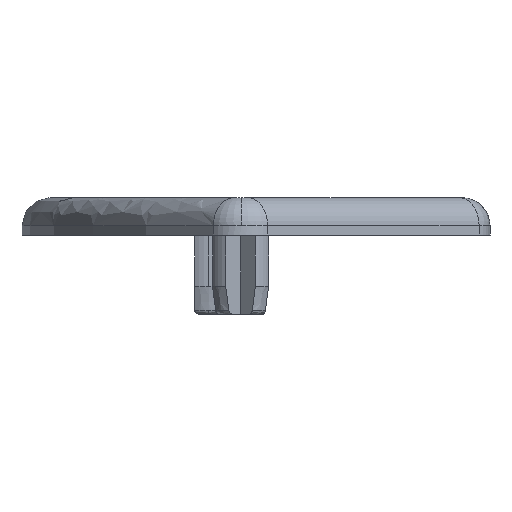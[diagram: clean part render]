
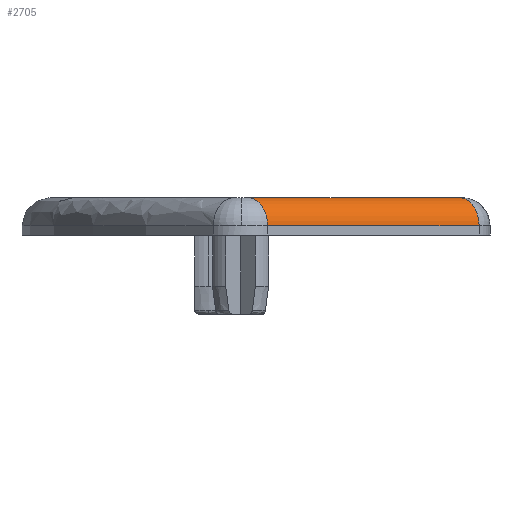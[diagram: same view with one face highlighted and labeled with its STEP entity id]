
A CAD part, left-side view. The second image highlights one B-rep face of the part: STEP entity #2705.
In plain terms, the highlighted cylindrical face has radius 3 mm (diameter 6 mm), a partial arc.
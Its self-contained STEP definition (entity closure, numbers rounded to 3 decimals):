
#28 = DIRECTION ( 'NONE',  ( 0.707, -0.707, 0. ) ) ;
#34 = ORIENTED_EDGE ( 'NONE', *, *, #2551, .T. ) ;
#56 = DIRECTION ( 'NONE',  ( 0.707, 0.707, 0. ) ) ;
#59 = DIRECTION ( 'NONE',  ( 0.707, 0.707, 0. ) ) ;
#81 = EDGE_LOOP ( 'NONE', ( #102, #2415, #1915, #34 ) ) ;
#102 = ORIENTED_EDGE ( 'NONE', *, *, #450, .T. ) ;
#167 = CARTESIAN_POINT ( 'NONE',  ( -51.544, -4.213, 0. ) ) ;
#441 = DIRECTION ( 'NONE',  ( -0.707, 0.707, 0. ) ) ;
#450 = EDGE_CURVE ( 'NONE', #1410, #2084, #960, .T. ) ;
#507 = DIRECTION ( 'NONE',  ( 0.707, -0.707, 0. ) ) ;
#522 = DIRECTION ( 'NONE',  ( 0.707, -0.707, 0. ) ) ;
#709 = CARTESIAN_POINT ( 'NONE',  ( 0., -60., -3. ) ) ;
#755 = DIRECTION ( 'NONE',  ( 0.707, 0.707, 0. ) ) ;
#862 = AXIS2_PLACEMENT_3D ( 'NONE', #1634, #441, #755 ) ;
#937 = LINE ( 'NONE', #709, #1413 ) ;
#960 = CIRCLE ( 'NONE', #862, 3. ) ;
#1336 = CARTESIAN_POINT ( 'NONE',  ( -28.863, -26.895, 0. ) ) ;
#1337 = VERTEX_POINT ( 'NONE', #167 ) ;
#1410 = VERTEX_POINT ( 'NONE', #1872 ) ;
#1413 = VECTOR ( 'NONE', #28, 1000. ) ;
#1634 = CARTESIAN_POINT ( 'NONE',  ( -28.863, -26.895, -3. ) ) ;
#1795 = CARTESIAN_POINT ( 'NONE',  ( -53.666, -6.334, -3. ) ) ;
#1848 = CARTESIAN_POINT ( 'NONE',  ( -51.544, -4.213, 0. ) ) ;
#1872 = CARTESIAN_POINT ( 'NONE',  ( -30.984, -29.016, -3. ) ) ;
#1915 = ORIENTED_EDGE ( 'NONE', *, *, #3063, .T. ) ;
#2006 = VERTEX_POINT ( 'NONE', #1795 ) ;
#2014 = CIRCLE ( 'NONE', #2956, 3. ) ;
#2084 = VERTEX_POINT ( 'NONE', #1336 ) ;
#2188 = CARTESIAN_POINT ( 'NONE',  ( 2.121, -57.879, -3. ) ) ;
#2415 = ORIENTED_EDGE ( 'NONE', *, *, #2896, .F. ) ;
#2508 = VECTOR ( 'NONE', #2587, 1000. ) ;
#2551 = EDGE_CURVE ( 'NONE', #2006, #1410, #937, .T. ) ;
#2587 = DIRECTION ( 'NONE',  ( 0.707, -0.707, 0. ) ) ;
#2640 = CYLINDRICAL_SURFACE ( 'NONE', #2755, 3. ) ;
#2653 = CARTESIAN_POINT ( 'NONE',  ( -51.544, -4.213, -3. ) ) ;
#2705 = ADVANCED_FACE ( 'NONE', ( #2871 ), #2640, .T. ) ;
#2755 = AXIS2_PLACEMENT_3D ( 'NONE', #2188, #507, #59 ) ;
#2852 = LINE ( 'NONE', #1848, #2508 ) ;
#2871 = FACE_OUTER_BOUND ( 'NONE', #81, .T. ) ;
#2896 = EDGE_CURVE ( 'NONE', #1337, #2084, #2852, .T. ) ;
#2956 = AXIS2_PLACEMENT_3D ( 'NONE', #2653, #522, #56 ) ;
#3063 = EDGE_CURVE ( 'NONE', #1337, #2006, #2014, .T. ) ;
